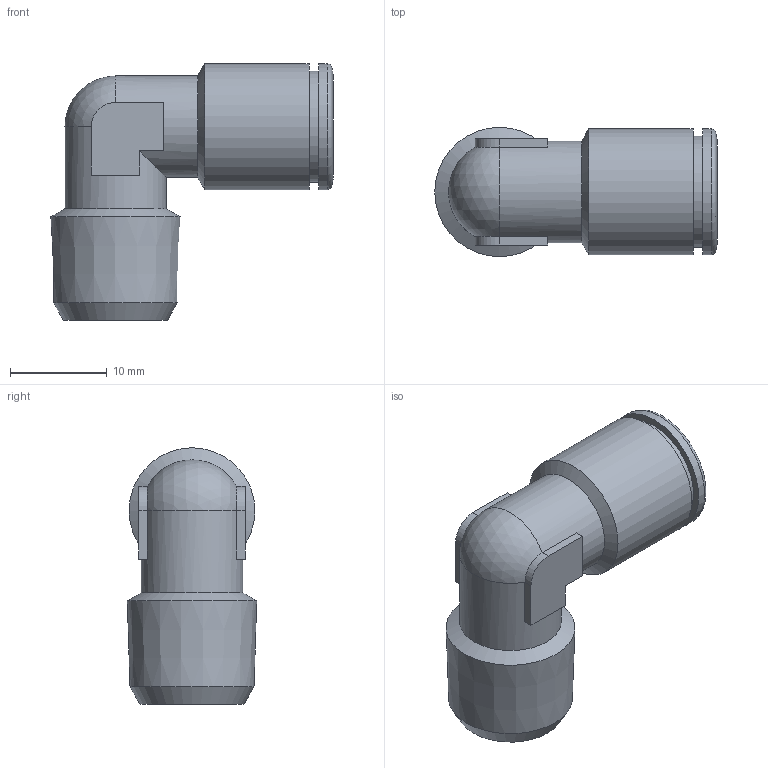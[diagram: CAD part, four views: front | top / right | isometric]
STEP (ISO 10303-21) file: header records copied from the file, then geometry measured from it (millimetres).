
FILE_DESCRIPTION(/* description */ (''),/* implementation_level */ '2;1');
FILE_NAME(/* name */ '201906-ES_STX019_8_R14_09.06.16',/* time_stamp */ '2016-06-09T11:27:29+02:00',/* author */ (''),/* organization */ (''),/* preprocessor_version */ 'ST-DEVELOPER v14',/* originating_system */ 'HiCAD 2013 1802.4 Build 509',/* authorisation */ '');
FILE_SCHEMA (('AUTOMOTIVE_DESIGN { 1 0 10303 214 1 1 1 1 }'));
Length unit declared in the file: millimetre
Products named in the file (3): Root; DR8-1_NEU; R201209-ES-N1
Assembly tree (2 placements, depth 2):
  Root
    DR8-1_NEU
    R201209-ES-N1
Bounding box: 29.18 x 13.37 x 26.5 mm (x, y, z)
Volume: 2664.3 mm3; surface area: 3408.9 mm2
Topology: 2 solids, 2 shells, 51 faces, 107 edges, 62 vertices
Faces by surface type: plane 20, cone 15, cylinder 14, torus 1, sphere 1
Full cylindrical faces by diameter (mm): 7 x2, 8.1 x1, 8.2 x1, 10.1 x1, 10.5 x2, 11 x1, 11.5 x1, 11.6 x1, 13 x2
Entity records: 4552 total; most frequent: CARTESIAN_POINT 2642, DIRECTION 232, PRESENTATION_STYLE_ASSIGNMENT 168, OVER_RIDING_STYLED_ITEM 166, COLOUR_RGB 160, DRAUGHTING_PRE_DEFINED_CURVE_FONT 158, CURVE_STYLE 158, ORIENTED_EDGE 158
